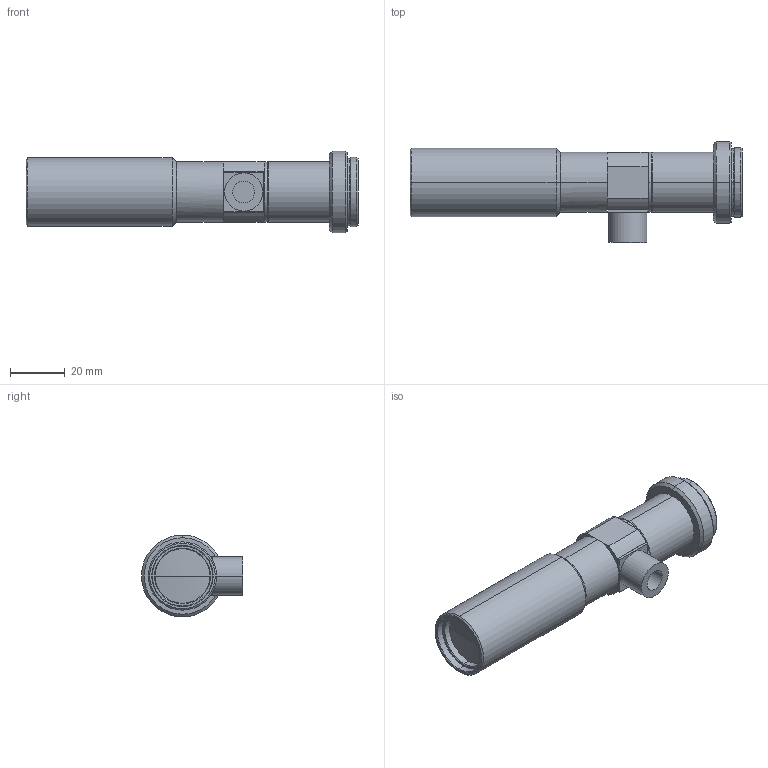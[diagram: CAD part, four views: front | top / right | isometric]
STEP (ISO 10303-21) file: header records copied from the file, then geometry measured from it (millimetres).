
FILE_DESCRIPTION (( 'STEP AP203' ), '1' );
FILE_NAME ('VS-TC08-170CO.STEP', '2016-08-29T00:42:39', ( 'miura_vst' ), ( '' ), 'SwSTEP 2.0', 'SolidWorks 2016', '' );
FILE_SCHEMA (( 'CONFIG_CONTROL_DESIGN' ));
Length unit declared in the file: millimetre
Products named in the file (1): VS-TC08-170CO
Bounding box: 121.62 x 37 x 30 mm (x, y, z)
Volume: 46368.2 mm3; surface area: 14332.3 mm2
Topology: 2 solids, 2 shells, 110 faces, 228 edges, 133 vertices
Faces by surface type: cone 40, cylinder 36, plane 32, sphere 2
Entity records: 2973 total; most frequent: DIRECTION 568, CARTESIAN_POINT 472, ORIENTED_EDGE 456, AXIS2_PLACEMENT_3D 229, EDGE_CURVE 228, VERTEX_POINT 133, EDGE_LOOP 123, CIRCLE 118
